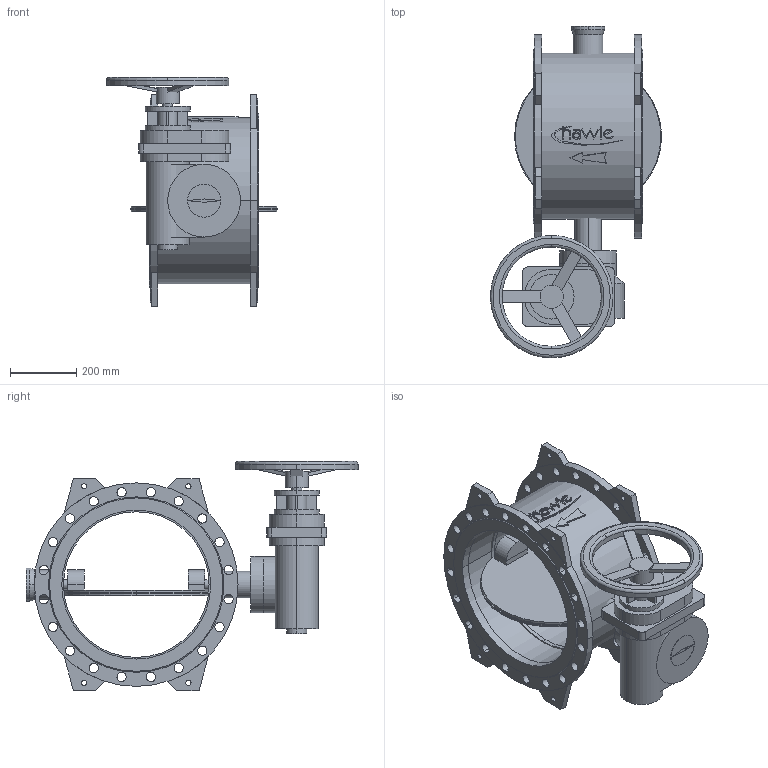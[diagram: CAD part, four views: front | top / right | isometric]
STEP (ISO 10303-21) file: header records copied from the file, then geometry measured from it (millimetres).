
FILE_DESCRIPTION(('STEP AP214'),'1');
FILE_NAME('S:/EK/USER/CAT6/3DHomepage_27-04-2012/neu_08-01-2013/9881K/9881K_PN10_DN450_7800.STP','2013-03-11T13:57:12',(' '),(' '),'Spatial InterOp 3D',' ',' ');
FILE_SCHEMA(('automotive_design'));
Length unit declared in the file: millimetre
Products named in the file (53): 3D-Objekt
Bounding box: 517 x 1003 x 692 mm (x, y, z)
Volume: 40114812.6 mm3; surface area: 3639860.7 mm2
Topology: 53 solids, 53 shells, 459 faces, 1052 edges, 702 vertices
Faces by surface type: plane 230, cylinder 217, cone 8, torus 4
Entity records: 18263 total; most frequent: DIRECTION 2556, CARTESIAN_POINT 2266, ORIENTED_EDGE 2104, EDGE_CURVE 1052, AXIS2_PLACEMENT_3D 992, VERTEX_POINT 702, EDGE_LOOP 576, LINE 572
